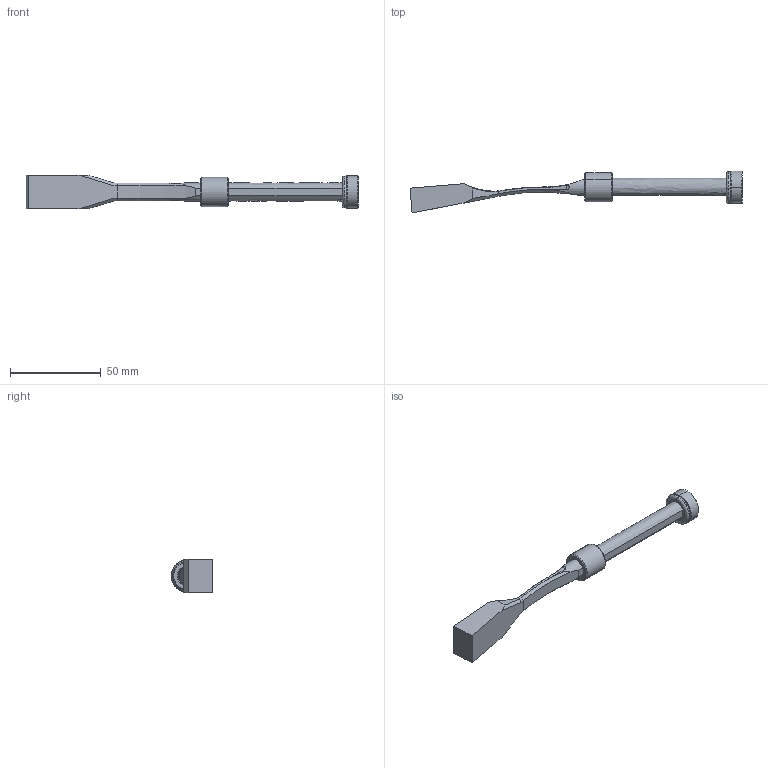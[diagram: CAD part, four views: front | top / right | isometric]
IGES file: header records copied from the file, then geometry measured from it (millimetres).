
Start section: START RECORD GO HERE.
Global section: file name: pw101830_ejection.igs; native system: DASSAULT SYSTEMES CATIA V5 R20 - www.3ds.com; preprocessor: CATIA Version 5 Release 20 ; author: Utente; organization: NB04-ASUS; date: 20201108.141141; units: millimetre
Bounding box: 182.5 x 22.96 x 18.2 mm (x, y, z)
Surface area: 10601.3 mm2 (no closed solid volume)
Topology: 0 solids, 0 shells, 110 faces, 504 edges, 500 vertices
Faces by surface type: revolution 70, plane 38, bspline 2
